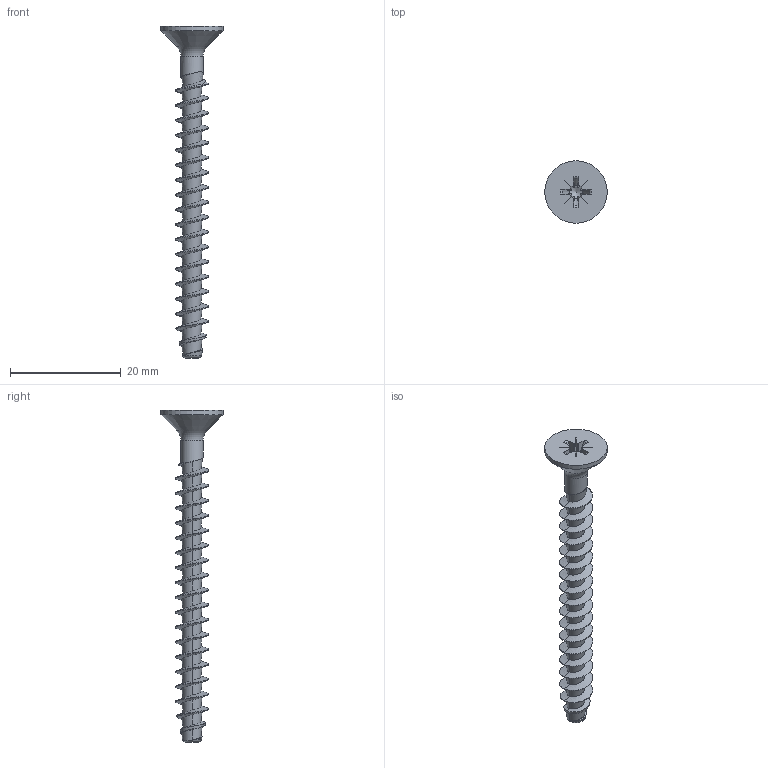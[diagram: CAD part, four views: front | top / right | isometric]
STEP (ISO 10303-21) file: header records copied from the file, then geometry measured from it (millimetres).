
FILE_DESCRIPTION(/* description */ (''),/* implementation_level */ '2;1');
FILE_NAME(/* name */ 'KN1033-STS-Neu-60x60-Z2.step',/* time_stamp */ '2017-10-20T11:54:35+02:00',/* author */ (''),/* organization */ (''),/* preprocessor_version */ 'ST-DEVELOPER v16',/* originating_system */ 'SIEMENS PLM Software NX 10.0',/* authorisation */ '');
FILE_SCHEMA (('AUTOMOTIVE_DESIGN { 1 0 10303 214 3 1 1 1 }'));
Length unit declared in the file: millimetre
Products named in the file (1): KN1033-STS-Neu-60x60-Z2
Bounding box: 11.3 x 11.3 x 60 mm (x, y, z)
Volume: 920.2 mm3; surface area: 1487.8 mm2
Topology: 1 solids, 1 shells, 116 faces, 297 edges, 183 vertices
Faces by surface type: bspline 60, plane 30, cylinder 12, cone 8, torus 6
Full cylindrical faces by diameter (mm): 4.03 x1, 11.3 x1
Entity records: 7544 total; most frequent: CARTESIAN_POINT 5223, ORIENTED_EDGE 568, DIRECTION 295, EDGE_CURVE 284, VERTEX_POINT 178, B_SPLINE_CURVE_WITH_KNOTS 130, LINE 125, VECTOR 125
